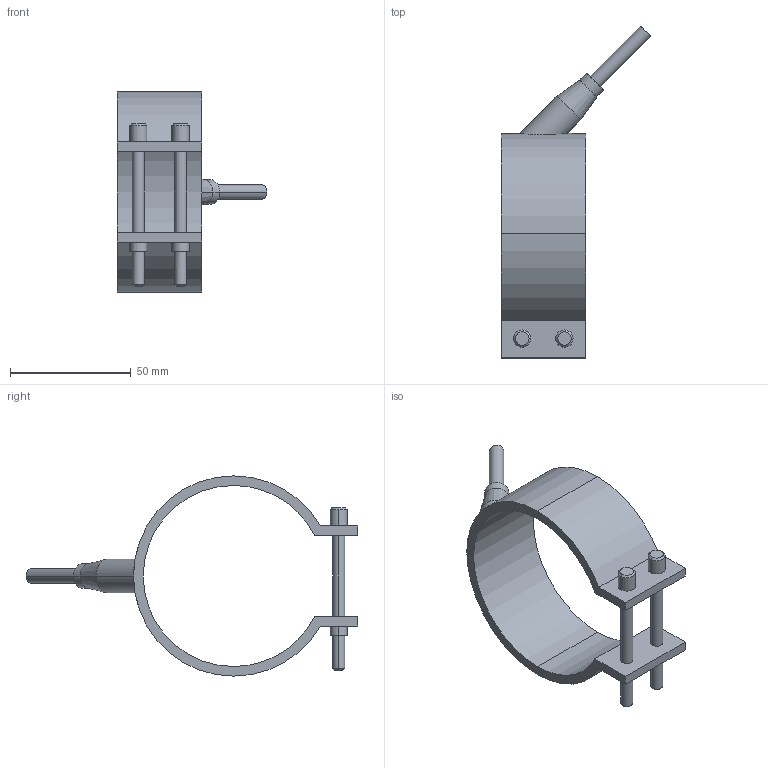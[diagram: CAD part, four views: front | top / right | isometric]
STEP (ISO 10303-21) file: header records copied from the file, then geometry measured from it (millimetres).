
FILE_DESCRIPTION(('CATIA V5 STEP Exchange'),'2;1');
FILE_NAME('C:\Users\Utente\Desktop\IO LAVORO\3D X SITO CF\X SITO\PLASTICA\RF1\29075035.stp','2021-03-29T18:15:30+00:00',('none'),('none'),'CATIA Version 5 Release 20 GA (IN-10)','CATIA V5 STEP AP203','none');
FILE_SCHEMA(('CONFIG_CONTROL_DESIGN'));
Length unit declared in the file: millimetre
Products named in the file (1): 29075035
Bounding box: 62.05 x 137.55 x 83 mm (x, y, z)
Volume: 41528.2 mm3; surface area: 22765.8 mm2
Topology: 1 solids, 1 shells, 54 faces, 125 edges, 81 vertices
Faces by surface type: cylinder 28, plane 16, cone 10
Entity records: 1732 total; most frequent: CARTESIAN_POINT 486, ORIENTED_EDGE 250, DIRECTION 215, EDGE_CURVE 125, AXIS2_PLACEMENT_3D 108, VERTEX_POINT 81, EDGE_LOOP 66, VECTOR 56
